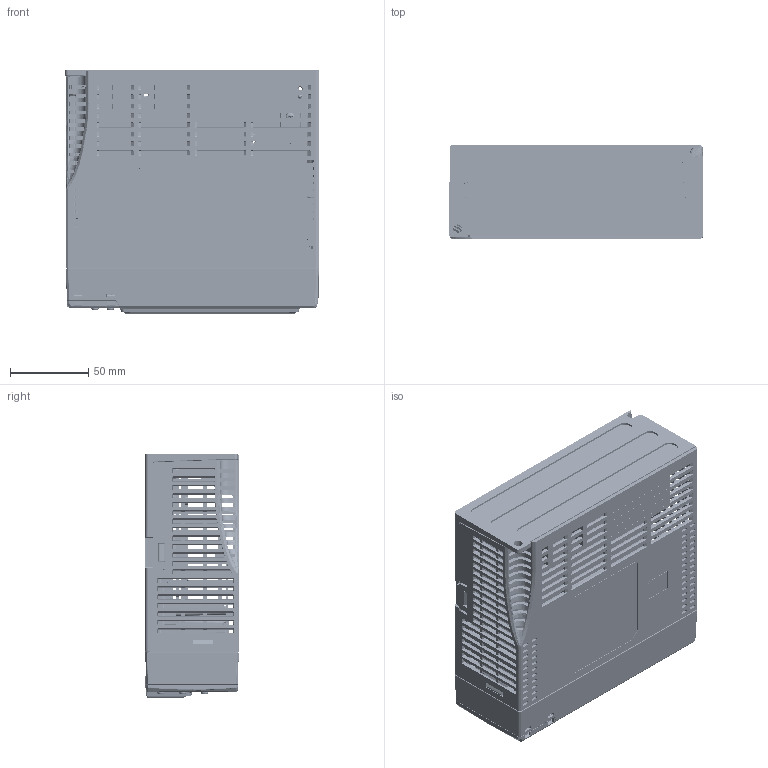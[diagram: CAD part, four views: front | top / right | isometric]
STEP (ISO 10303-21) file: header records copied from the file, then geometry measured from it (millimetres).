
FILE_DESCRIPTION((''),'2;1');
FILE_NAME('00-ASD-B3-0421-L','2020-05-11T',('JIMMY.CM.HUANG'),(''),'CREO PARAMETRIC BY PTC INC, 2018220','CREO PARAMETRIC BY PTC INC, 2018220','');
FILE_SCHEMA(('CONFIG_CONTROL_DESIGN'));
Products named in the file (25): HSK_B3_400W_63; PCBA_POWER_400W_1022_B2_A_01_71; TERM_CONN_0032-3812_3; 0_PWR_B3-400W_74; M3-L8_B3_5; PCBA_CONTROL__01_B2_B2_4; USB_DIP_CU04SCH15BD_5; RJ45_307257383M_7; IEEE1394_3076810243_14; PIN-HEADER_3071422087_7; D-SUB-44P_3075357287_5; 0_CONTROL-BD_B3-B_41; DISPLAY_B3_4; 7_LED_DISP_MINI_A__2; SWITCH_3000935636_3; 0-DISPLAY-BD_B3_11; COVER_DISPLAY_LENS_B3_26; CASE_B3-400W_15; COVER-B3-1500W_148; DOOR_B3-1500W_13; MODEL-LABEL_2; LABEL_QR_CODE_3; M4_GND_B2_01_1; 00-ASD-B3-0421_108; 00-ASD-B3-0421-L
Assembly tree (29 placements, depth 4):
  00-ASD-B3-0421-L
    00-ASD-B3-0421_108
      HSK_B3_400W_63
      0_PWR_B3-400W_74
        PCBA_POWER_400W_1022_B2_A_01_71
        TERM_CONN_0032-3812_3
      M3-L8_B3_5
      0_CONTROL-BD_B3-B_41
        PCBA_CONTROL__01_B2_B2_4
        USB_DIP_CU04SCH15BD_5
        RJ45_307257383M_7
        IEEE1394_3076810243_14
        PIN-HEADER_3071422087_7
        D-SUB-44P_3075357287_5
      0-DISPLAY-BD_B3_11
        DISPLAY_B3_4
        7_LED_DISP_MINI_A__2
        SWITCH_3000935636_3  x5
      COVER_DISPLAY_LENS_B3_26
      CASE_B3-400W_15
      COVER-B3-1500W_148
      DOOR_B3-1500W_13
      MODEL-LABEL_2
      LABEL_QR_CODE_3
      M4_GND_B2_01_1  x2
Bounding box: 162.57 x 60.05 x 155.85 mm (x, y, z)
Volume: 340593.2 mm3; surface area: 311596.8 mm2
Topology: 25 solids, 35 shells, 13452 faces, 37382 edges, 24150 vertices
Faces by surface type: plane 8503, cylinder 3434, bspline 586, cone 421, torus 240, sphere 162, extrusion 86, revolution 20
Entity records: 438570 total; most frequent: CARTESIAN_POINT 112922, ORIENTED_EDGE 64580, DIRECTION 56358, EDGE_CURVE 32290, VECTOR 22976, LINE 22946, VERTEX_POINT 20941, AXIS2_PLACEMENT_3D 16689
